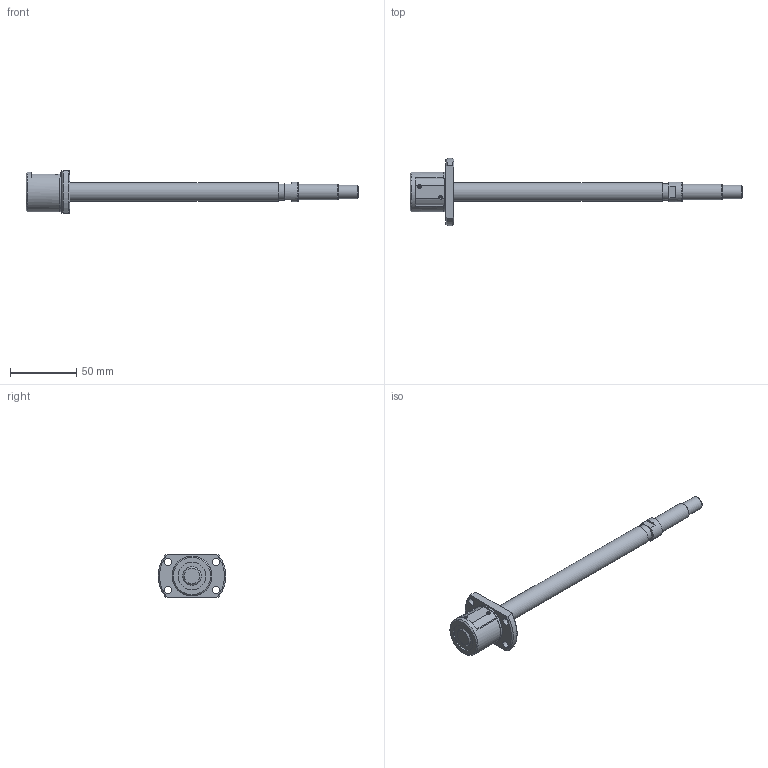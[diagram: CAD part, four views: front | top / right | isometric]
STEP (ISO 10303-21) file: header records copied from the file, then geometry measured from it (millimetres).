
FILE_DESCRIPTION( ( 'STEP AP203' ), '1' );
FILE_NAME( 'e:/temp/worker_93/temp/exporttempdir_3516_4_gVdfP/format_0/SG1404-190R250C3A1X(0).stp', '2021-10-19T02:31:45', ( 'License CC BY-ND 4.0' ), ( 'CADENAS' ), ' ', 'PARTsolutions', ' ' );
FILE_SCHEMA( ( 'CONFIG_CONTROL_DESIGN' ) );
Length unit declared in the file: millimetre
Products named in the file (3): SG1404-190R250C3A1X(0); _SG1404-190R250C3A_shaft; _SG1404_nut
Assembly tree (2 placements, depth 2):
  SG1404-190R250C3A1X(0)
    _SG1404-190R250C3A_shaft
    _SG1404_nut
Bounding box: 250 x 51 x 32 mm (x, y, z)
Volume: 57575.4 mm3; surface area: 18798.8 mm2
Topology: 2 solids, 2 shells, 78 faces, 190 edges, 124 vertices
Faces by surface type: plane 38, cylinder 26, cone 13, torus 1
Full cylindrical faces by diameter (mm): 5.5 x4, 10 x1, 12 x1, 12.16 x1, 14 x2, 15 x1, 21 x2, 29.6 x1, 30 x1
Entity records: 2270 total; most frequent: CARTESIAN_POINT 433, DIRECTION 376, ORIENTED_EDGE 312, AXIS2_PLACEMENT_3D 157, EDGE_CURVE 156, EDGE_LOOP 120, VERTEX_POINT 114, FACE_OUTER_BOUND 93
